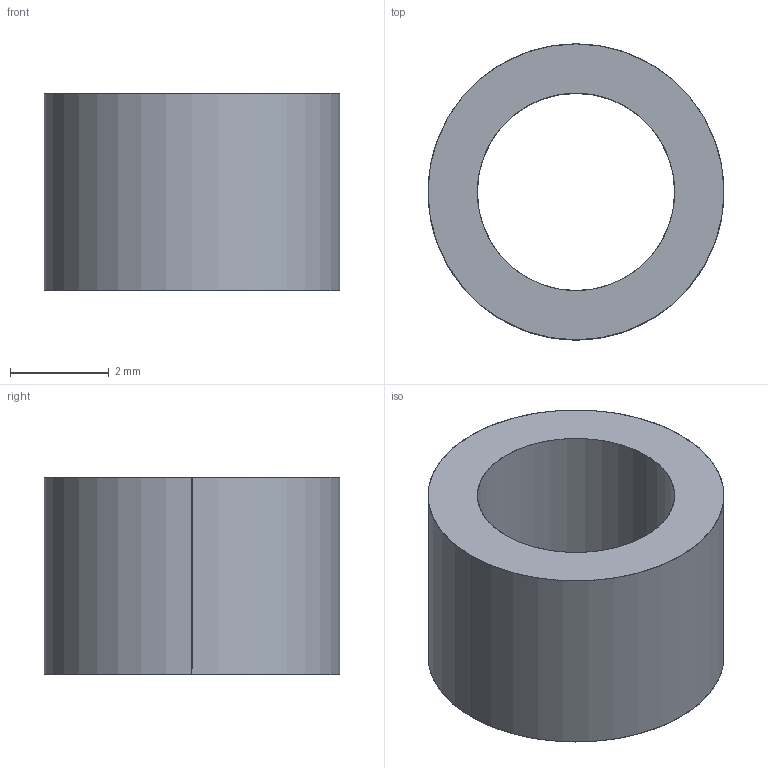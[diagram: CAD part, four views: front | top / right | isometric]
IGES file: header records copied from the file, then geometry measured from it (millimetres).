
Start section: SolidWorks IGES file using analytic representation for surfaces
Global section: file name: C:\Users\AndreBernot\Downloads\K-RACER-L_3D_SW\K-RACER-L_3D_SW\Entretoise D6 x 4 Noire.IGS; native system: SolidWorks 2015; preprocessor: SolidWorks 2015; author: AndreBernot; date: 170922.151215; units: millimetre
Bounding box: 6 x 6 x 4 mm (x, y, z)
Surface area: 157.1 mm2 (no closed solid volume)
Topology: 0 solids, 0 shells, 6 faces, 144 edges, 144 vertices
Faces by surface type: revolution 4, bspline 2
